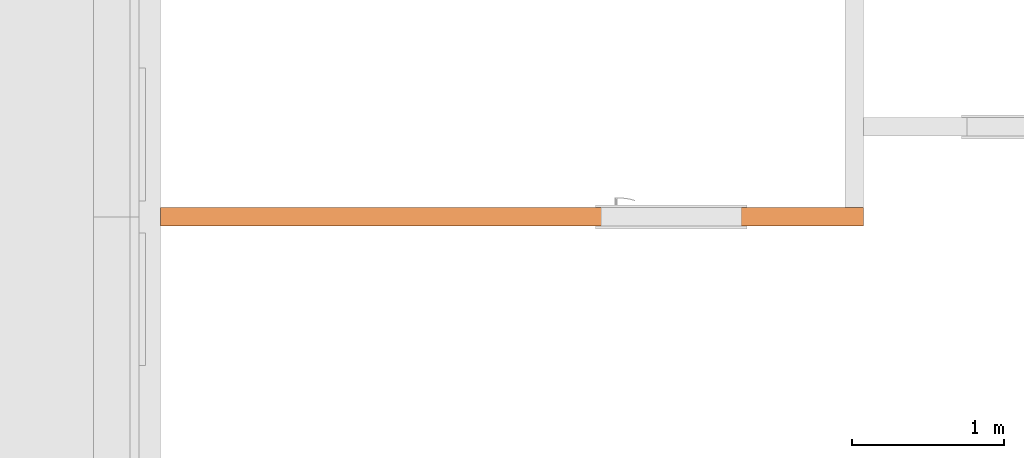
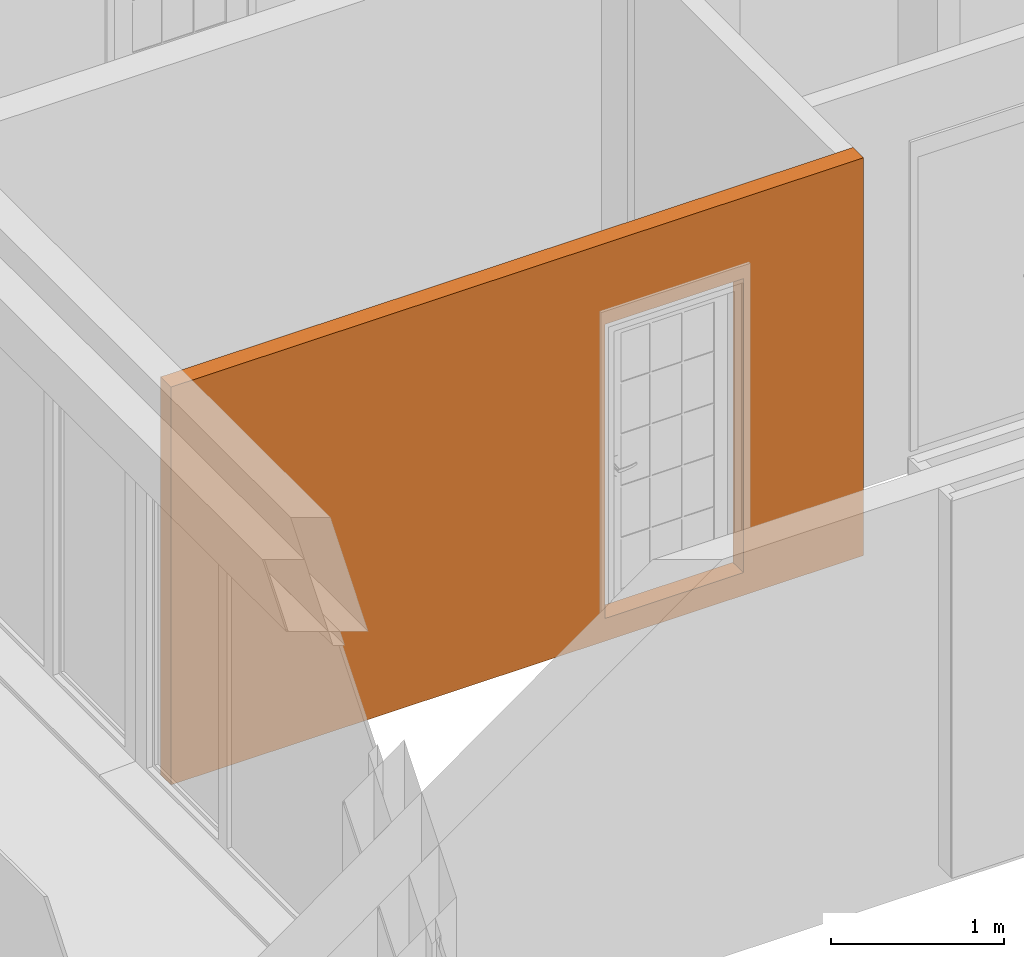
# One storey, part 36 of 64: 1 proxy, 1 opening.
"""IFC2X3 building model written with IfcOpenShell, lengths in millimetres."""

import ifcopenshell
import ifcopenshell.guid

model = None  # the IFC model being written
_history = None  # IfcOwnerHistory: only IFC2X3 demands one
_inside = {}  # id of a spatial element -> (the spatial element, [elements in it])
_under = {}  # id of a project, library or spatial element -> (it, [spatial elements below it])
_declared = {}  # id of a project -> (the project, [libraries it declares])
_typed = {}  # id of a type object -> (the type object, [elements of that type])
_made_of = {}  # id of a material, layer set ... -> (it, [elements and type objects made of it])


def new_model(schema):
    """Start an empty IFC model of exactly this schema.

    Asked for "IFC4X3", IfcOpenShell would pick the latest addendum, in which some entities
    have other attributes; the version numbers below select the first issue.
    IFC2X3 requires an IfcOwnerHistory on every rooted entity: one is made here for all.
    """
    global model, _history
    if schema == "IFC4X3":
        model = ifcopenshell.file(schema_version=(4, 3, 0, 0))
    else:
        model = ifcopenshell.file(schema=schema)
    _inside.clear()
    _under.clear()
    _declared.clear()
    _typed.clear()
    _made_of.clear()
    _history = None
    if model.schema == "IFC2X3":
        org = make("IfcOrganization", Name="unknown")
        user = make(
            "IfcPersonAndOrganization",
            ThePerson=make("IfcPerson", FamilyName="unknown"),
            TheOrganization=org,
        )
        app = make(
            "IfcApplication",
            ApplicationDeveloper=org,
            Version="unknown",
            ApplicationFullName="unknown",
            ApplicationIdentifier="unknown",
        )
        _history = make(
            "IfcOwnerHistory",
            OwningUser=user,
            OwningApplication=app,
            ChangeAction="ADDED",
            CreationDate=0,
        )
    return model


def make(cls, **values):
    """One entity of the class cls with the attributes given. An attribute that is None is left unset."""
    return model.create_entity(
        cls, **{name: value for name, value in values.items() if value is not None}
    )


def entity(cls, *values):
    """Any entity or typed value of the class cls, its attributes in the order of the schema. None: left unset."""
    e = model.create_entity(cls)
    for i, value in enumerate(values):
        if value is not None:
            e[i] = value
    return e


def rooted(cls, **values):
    """An entity with a GlobalId (a new one), such as an element, a storey or a relation."""
    return make(cls, GlobalId=ifcopenshell.guid.new(), OwnerHistory=_history, **values)


def si_unit(unit_type, name, prefix=None):
    """IfcSIUnit, for example si_unit("LENGTHUNIT", "METRE", prefix="MILLI")."""
    return make("IfcSIUnit", UnitType=unit_type, Prefix=prefix, Name=name)


def converted_unit(unit_type, name, factor, base, dimensions=None, offset=None):
    """IfcConversionBasedUnit, such as the inch: factor (a typed value) times the base unit."""
    return make(
        "IfcConversionBasedUnit"
        if offset is None
        else "IfcConversionBasedUnitWithOffset",
        ConversionOffset=offset,
        Dimensions=None
        if dimensions is None
        else entity("IfcDimensionalExponents", *dimensions),
        UnitType=unit_type,
        Name=name,
        ConversionFactor=make(
            "IfcMeasureWithUnit", ValueComponent=factor, UnitComponent=base
        ),
    )


def derived_unit(unit_type, elements):
    """IfcDerivedUnit: a product of units, each with its exponent."""
    return make(
        "IfcDerivedUnit",
        Elements=[
            make("IfcDerivedUnitElement", Unit=unit, Exponent=power)
            for unit, power in elements
        ],
        UnitType=unit_type,
    )


def money_unit(currency):
    """IfcMonetaryUnit."""
    return make("IfcMonetaryUnit", Currency=currency)


def assignment(units):
    """IfcUnitAssignment: the units of a project."""
    return None if units is None else make("IfcUnitAssignment", Units=units)


def point(xyz):
    """IfcCartesianPoint."""
    return None if xyz is None else make("IfcCartesianPoint", Coordinates=xyz)


def direction(xyz):
    """IfcDirection."""
    return None if xyz is None else make("IfcDirection", DirectionRatios=xyz)


def frame(location, z_axis=None, x_axis=None):
    """IfcAxis2Placement3D, a coordinate frame: its origin and axes. An axis left out is left unset."""
    return make(
        "IfcAxis2Placement3D",
        Location=point(location),
        Axis=direction(z_axis),
        RefDirection=direction(x_axis),
    )


def frame_2d(location, x_axis=None):
    """IfcAxis2Placement2D, a coordinate frame in the plane: its origin and x axis."""
    return make(
        "IfcAxis2Placement2D", Location=point(location), RefDirection=direction(x_axis)
    )


def origin_with_axes():
    """The frame at (0, 0, 0) with the z axis (0, 0, 1) and the x axis (1, 0, 0) written out."""
    return frame((0.0, 0.0, 0.0), z_axis=(0.0, 0.0, 1.0), x_axis=(1.0, 0.0, 0.0))


def origin_2d_with_axis():
    """The frame at (0, 0) in the plane with the x axis (1, 0) written out."""
    return frame_2d((0.0, 0.0), x_axis=(1.0, 0.0))


def place(relative_to, where):
    """IfcLocalPlacement: puts the frame where relative to a parent placement (None: the world)."""
    return make(
        "IfcLocalPlacement", PlacementRelTo=relative_to, RelativePlacement=where
    )


def context(
    kind, dimensions, precision=None, world=None, true_north=None, identifier=None
):
    """IfcGeometricRepresentationContext, for example the 3D "Model" context."""
    return make(
        "IfcGeometricRepresentationContext",
        ContextIdentifier=identifier,
        ContextType=kind,
        CoordinateSpaceDimension=dimensions,
        Precision=precision,
        WorldCoordinateSystem=world,
        TrueNorth=true_north,
    )


def subcontext(parent, identifier, kind, view, scale=None):
    """IfcGeometricRepresentationSubContext, for example "Body" below "Model"."""
    return make(
        "IfcGeometricRepresentationSubContext",
        ContextIdentifier=identifier,
        ContextType=kind,
        ParentContext=parent,
        TargetScale=scale,
        TargetView=view,
    )


def project(units=None, contexts=None):
    """IfcProject with its units and contexts."""
    return rooted(
        "IfcProject",
        Name="project",
        RepresentationContexts=contexts,
        UnitsInContext=assignment(units),
    )


def spatial(cls, under=None, at=None, **own):
    """A site, building, storey or space (cls), placed at a placement, below another one or the project."""
    s = rooted(cls, ObjectPlacement=at, **own)
    if under is not None:
        _under.setdefault(under.id(), (under, []))[1].append(s)
    return s


def profile(cls, at=None, kind="AREA", **sizes):
    """A parametric profile (cls). Its sizes go by their IFC names, for example OverallWidth=200.0."""
    return make(cls, ProfileType=kind, Position=at, **sizes)


def rectangle(**sizes):
    """IfcRectangleProfileDef."""
    return profile("IfcRectangleProfileDef", **sizes)


def extrude(swept, where, along, depth):
    """IfcExtrudedAreaSolid: the profile swept, set in the frame where, extruded along a direction by depth."""
    return make(
        "IfcExtrudedAreaSolid",
        SweptArea=swept,
        Position=where,
        ExtrudedDirection=direction(along),
        Depth=depth,
    )


def faces_of(points, faces, orient=None, outer=None):
    """IfcFace entities. A face is a list of loops; a loop is a list of indices into points, from 0.

    orient and outer hold one flag for each loop. By default every Orientation is true, the
    first loop of a face is its IfcFaceOuterBound and the others are IfcFaceBound.
    """
    made = []
    for i, loops in enumerate(faces):
        bounds = []
        for j, loop in enumerate(loops):
            is_outer = j == 0 if outer is None else outer[i][j]
            bounds.append(
                make(
                    "IfcFaceOuterBound" if is_outer else "IfcFaceBound",
                    Bound=make("IfcPolyLoop", Polygon=[points[k] for k in loop]),
                    Orientation=True if orient is None else orient[i][j],
                )
            )
        made.append(make("IfcFace", Bounds=bounds))
    return made


def faceted_brep(points, faces, orient=None, outer=None, voids=None):
    """IfcFacetedBrep: a solid bounded by flat faces; with voids (closed shells), ...WithVoids."""
    shared = [point(p) for p in points]
    hull = make("IfcClosedShell", CfsFaces=faces_of(shared, faces, orient, outer))
    if voids is None:
        return make("IfcFacetedBrep", Outer=hull)
    return make(
        "IfcFacetedBrepWithVoids",
        Outer=hull,
        Voids=[
            make(cls, CfsFaces=faces_of(shared, fs, o, b)) for cls, fs, o, b in voids
        ],
    )


def shape(context_of_items, identifier, shape_type, items):
    """IfcShapeRepresentation: the items that make up one representation, for example the "Body"."""
    return make(
        "IfcShapeRepresentation",
        ContextOfItems=context_of_items,
        RepresentationIdentifier=identifier,
        RepresentationType=shape_type,
        Items=items,
    )


def material(Name=None, Category=None):
    """IfcMaterial."""
    return make("IfcMaterial", Name=Name, Category=Category)


def made_of(thing, what):
    """Note that an element or type object is made of a material, layer set ...; save() writes the relation."""
    if what is not None:
        _made_of.setdefault(what.id(), (what, []))[1].append(thing)
    return thing


def type_object(cls, material=None, **own):
    """A type object (cls), such as IfcWallType, which elements share."""
    return made_of(rooted(cls, **own), material)


def element(
    cls,
    number,
    at=None,
    inside=None,
    cuts=None,
    type_object=None,
    material=None,
    context=None,
    identifier="Body",
    shape_type=None,
    held_by="IfcProductDefinitionShape",
    body=None,
    shapes=None,
    **own,
):
    """One element of the class cls, such as IfcWall. Its Tag is "e" and its number.

    at: its placement. inside: the storey or other place that contains it. cuts: it is an
    opening in that element (IfcRelVoidsElement). A single representation is given by context,
    identifier, shape_type and body (its items); several are given by shapes. held_by: the class
    of the entity that holds the representations. save() writes the other relations.
    """
    e = rooted(cls, Tag="e%d" % number, ObjectPlacement=at, **own)
    if body is not None:
        shapes = [shape(context, identifier, shape_type, body)]
    if shapes is not None:
        e.Representation = make(held_by, Representations=shapes)
    if inside is not None:
        _inside.setdefault(inside.id(), (inside, []))[1].append(e)
    if cuts is not None:
        rooted(
            "IfcRelVoidsElement", RelatingBuildingElement=cuts, RelatedOpeningElement=e
        )
    if type_object is not None:
        _typed.setdefault(type_object.id(), (type_object, []))[1].append(e)
    return made_of(e, material)


def aggregate(whole, parts):
    """IfcRelAggregates: a whole, such as a stair, and the parts it consists of."""
    return rooted("IfcRelAggregates", RelatingObject=whole, RelatedObjects=parts)


def save(model, path):
    """Write the relations noted so far, then the file.

    IfcRelAggregates (storeys below a building ...), IfcRelContainedInSpatialStructure (elements
    in a storey), IfcRelDefinesByType, IfcRelAssociatesMaterial and IfcRelDeclares: one each for
    every whole, place, type object, material and project.
    """
    for whole, parts in _under.values():
        aggregate(whole, parts)
    for where, things in _inside.values():
        rooted(
            "IfcRelContainedInSpatialStructure",
            RelatedElements=things,
            RelatingStructure=where,
        )
    for kind, things in _typed.values():
        rooted("IfcRelDefinesByType", RelatedObjects=things, RelatingType=kind)
    for what, things in _made_of.values():
        rooted("IfcRelAssociatesMaterial", RelatedObjects=things, RelatingMaterial=what)
    for by, libraries in _declared.values():
        rooted("IfcRelDeclares", RelatingContext=by, RelatedDefinitions=libraries)
    model.write(path)


model = new_model("IFC2X3")

# Units and contexts
model_context = context("Model", 3, precision=0.01, world=origin_with_axes(), true_north=direction((0.34421633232, 0.938890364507)))
body_context = subcontext(model_context, "Body", "Model", "MODEL_VIEW")
ifc_project = project(units=[si_unit("LENGTHUNIT", "METRE", prefix="MILLI"), si_unit("AREAUNIT", "SQUARE_METRE"), si_unit("VOLUMEUNIT", "CUBIC_METRE"), converted_unit("PLANEANGLEUNIT", "DEGREE", entity("IfcPlaneAngleMeasure", 0.0174532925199), si_unit("PLANEANGLEUNIT", "RADIAN"), dimensions=[0, 0, 0, 0, 0, 0, 0]), si_unit("SOLIDANGLEUNIT", "STERADIAN"), money_unit("USD"), converted_unit("TIMEUNIT", "Year", entity("IfcTimeMeasure", 31556926.0), si_unit("TIMEUNIT", "SECOND"), dimensions=[0, 0, 1, 0, 0, 0, 0]), si_unit("MASSUNIT", "GRAM", prefix="KILO"), si_unit("THERMODYNAMICTEMPERATUREUNIT", "DEGREE_CELSIUS"), si_unit("LUMINOUSINTENSITYUNIT", "LUMEN"), si_unit("ENERGYUNIT", "JOULE", prefix="MEGA"), derived_unit("THERMALCONDUCTANCEUNIT", [(si_unit("POWERUNIT", "WATT"), 1), (si_unit("LENGTHUNIT", "METRE"), -1), (si_unit("THERMODYNAMICTEMPERATUREUNIT", "KELVIN"), -1)]), derived_unit("SPECIFICHEATCAPACITYUNIT", [(si_unit("ENERGYUNIT", "JOULE"), 1), (si_unit("MASSUNIT", "GRAM", prefix="KILO"), -1), (si_unit("THERMODYNAMICTEMPERATUREUNIT", "KELVIN"), -1)]), derived_unit("MASSDENSITYUNIT", [(si_unit("MASSUNIT", "GRAM", prefix="KILO"), 1), (si_unit("VOLUMEUNIT", "CUBIC_METRE"), -1)])], contexts=[model_context])

# Site, building, storey
site_placement = place(None, origin_with_axes())
site = spatial("IfcSite", under=ifc_project, at=site_placement, Name="USTRONIE MORSKIE", CompositionType="ELEMENT")
building_placement = place(site_placement, origin_with_axes())
building = spatial("IfcBuilding", under=site, at=building_placement, Name="Budynek", CompositionType="ELEMENT")
storey_placement = place(building_placement, frame((0.0, 0.0, 7000.0), z_axis=(0.0, 0.0, 1.0), x_axis=(1.0, 0.0, 0.0)))
storey = spatial("IfcBuildingStorey", under=building, at=storey_placement, Name="PIĘTRO 2", CompositionType="ELEMENT", Elevation=7000.0)

# Proxy, opening
ifc_material = material(Name="Bloczki silikatowe")
building_element_proxy_type = type_object("IfcBuildingElementProxyType", Name="Bloczki silikatowe 120", PredefinedType="NOTDEFINED")
proxy_placement = place(storey_placement, frame((354717.920919, 724051.179686, -160.0), z_axis=(0.0, 0.0, 1.0), x_axis=(-1.0, 0.0, 0.0)))
proxy = element("IfcBuildingElementProxy", 1, at=proxy_placement, inside=storey, type_object=building_element_proxy_type, material=ifc_material, Name="SW-04", context=body_context, shape_type="Brep", body=[
    faceted_brep([(4550.0, 59.9999999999, 0.0), (4550.0, -59.9999999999, 0.0), (-60.0, -59.9999999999, 0.0), (-60.0, 59.9999999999, 0.0), (4550.0, 59.9999999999, 2800.0), (4550.0, -59.9999999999, 2800.0), (-60.0, -59.9999999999, 2800.0), (-60.0, 59.9999999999, 2800.0)], [[[0, 1, 2, 3]], [[1, 0, 4, 5]], [[1, 5, 6, 2]], [[7, 3, 2, 6]], [[4, 0, 3, 7]], [[5, 4, 7, 6]]]),
])
opening_placement = place(proxy_placement, frame((1200.0, 0.0, 160.0), z_axis=(0.0, 0.0, 1.0), x_axis=(1.0, 0.0, 0.0)))
element("IfcOpeningElement", 2, at=opening_placement, cuts=proxy, Name="Dw.3", context=body_context, shape_type="SweptSolid", body=[
    extrude(rectangle(XDim=920.0, YDim=2070.0, at=origin_2d_with_axis()), frame((0.0, -120.0, 1035.0), z_axis=(0.0, 1.0, 0.0), x_axis=(-1.0, 0.0, 0.0)), (0.0, 0.0, 1.0), 360.0),
    extrude(rectangle(XDim=994.0, YDim=2177.0, at=origin_2d_with_axis()), frame((0.0, -59.9999999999, 1088.5), z_axis=(0.0, 1.0, 0.0), x_axis=(-1.0, 0.0, 0.0)), (0.0, 0.0, -1.0), 120.0),
    extrude(rectangle(XDim=994.0, YDim=2177.0, at=origin_2d_with_axis()), frame((0.0, 60.0000000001, 1088.5), z_axis=(0.0, -1.0, 0.0), x_axis=(-1.0, 0.0, 0.0)), (0.0, 0.0, -1.0), 120.0),
])

save(model, "model.ifc")
